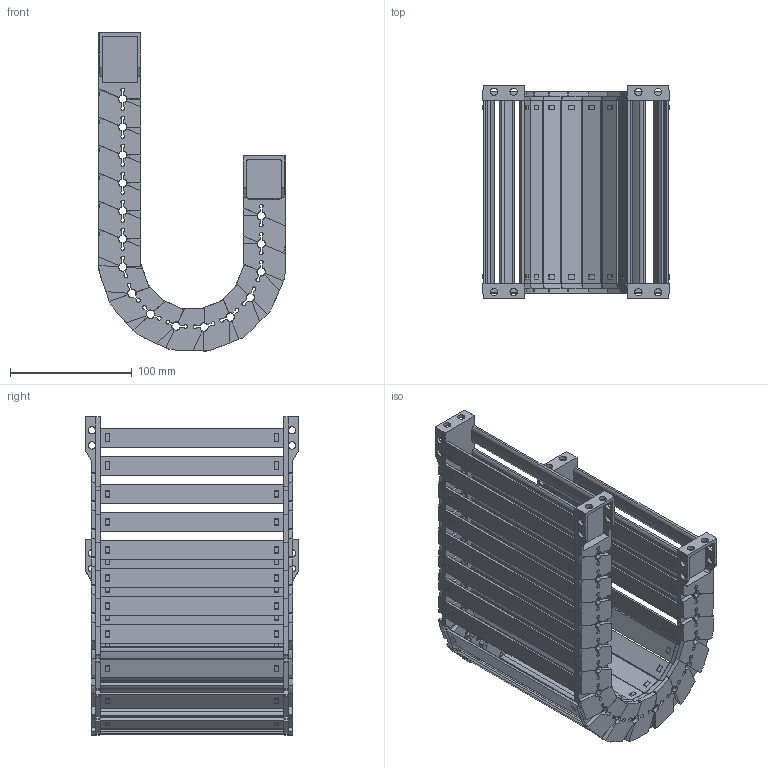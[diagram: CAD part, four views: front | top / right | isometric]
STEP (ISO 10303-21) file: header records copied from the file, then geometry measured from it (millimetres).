
FILE_DESCRIPTION(/* description */ (''),/* implementation_level */ '2;1');
FILE_NAME(/* name */ 'JY28-150-R55.stp',/* time_stamp */ '2026-06-03T18:26:53+08:00',/* author */ (''),/* organization */ (''),/* preprocessor_version */ 'ST-DEVELOPER v19.4',/* originating_system */ 'SIEMENS PLM Software NX2306.5001',/* authorisation */ '');
FILE_SCHEMA (('AP203_CONFIGURATION_CONTROLLED_3D_DESIGN_OF_MECHANICAL_PARTS_AND_ASSEMBLIES_MIM_LF { 1 0 10303 403 2 1 2}'));
Products named in the file (1): 简化图纸_objects
Bounding box: 153.11 x 174.5 x 261.45 mm (x, y, z)
Volume: 486492.9 mm3; surface area: 332310.4 mm2
Topology: 18 solids, 18 shells, 3920 faces, 10964 edges, 7130 vertices
Faces by surface type: plane 2177, cone 940, cylinder 741, bspline 60, torus 2
Full cylindrical faces by diameter (mm): 6 x24
Entity records: 135289 total; most frequent: CARTESIAN_POINT 33855, ORIENTED_EDGE 21836, DIRECTION 20876, EDGE_CURVE 10918, AXIS2_PLACEMENT_3D 7349, VERTEX_POINT 7108, LINE 6178, VECTOR 6178
